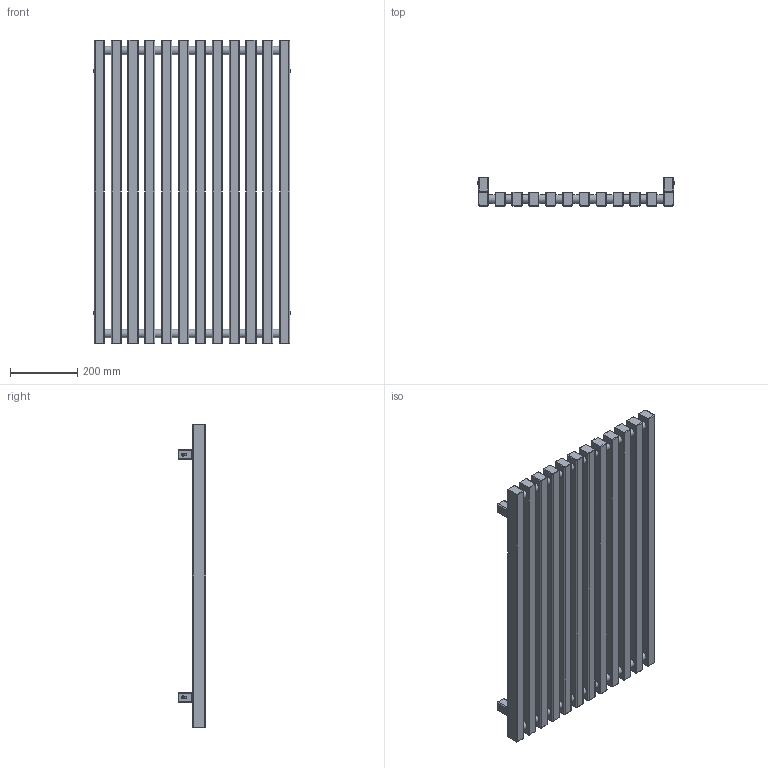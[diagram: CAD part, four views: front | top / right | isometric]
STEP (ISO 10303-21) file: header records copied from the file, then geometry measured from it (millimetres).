
FILE_DESCRIPTION((''),'2;1');
FILE_NAME('Z:\R\G\P\RGP029 - Grzejnik Triga ( ZET)\Work\Inventor\Triga v1.1\Marketing\AutoCad 3D\G-TR-XX-MK-XX-90-68-ZX.stp','2012-07-26T13:39:26',('DawPi'),(''),'Autodesk Inventor 2012','Autodesk Inventor 2012','');
FILE_SCHEMA(('AUTOMOTIVE_DESIGN { 1 0 10303 214 1 1 1 1 }'));
Length unit declared in the file: millimetre
Products named in the file (3): G-TR-XX-MK-XX-90-68-ZX; MMT42
Assembly tree (5 placements, depth 2):
  G-TR-XX-MK-XX-90-68-ZX
    G-TR-XX-MK-XX-90-68-ZX
    MMT42  x4
Bounding box: 586 x 82 x 900 mm (x, y, z)
Volume: 13227161.7 mm3; surface area: 1528304 mm2
Topology: 5 solids, 5 shells, 541 faces, 1217 edges, 731 vertices
Faces by surface type: cylinder 225, plane 183, bspline 96, cone 24, torus 13
Full cylindrical faces by diameter (mm): 4.134 x4, 4.509 x4, 10 x4, 11.445 x1, 12 x4, 18.631 x2, 25 x22
Entity records: 18359 total; most frequent: CARTESIAN_POINT 9498, DIRECTION 1970, ORIENTED_EDGE 1692, EDGE_CURVE 846, AXIS2_PLACEMENT_3D 810, VERTEX_POINT 522, EDGE_LOOP 508, CIRCLE 492
